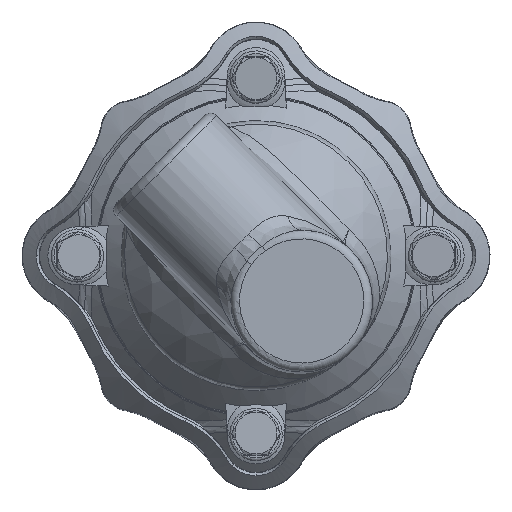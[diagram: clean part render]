
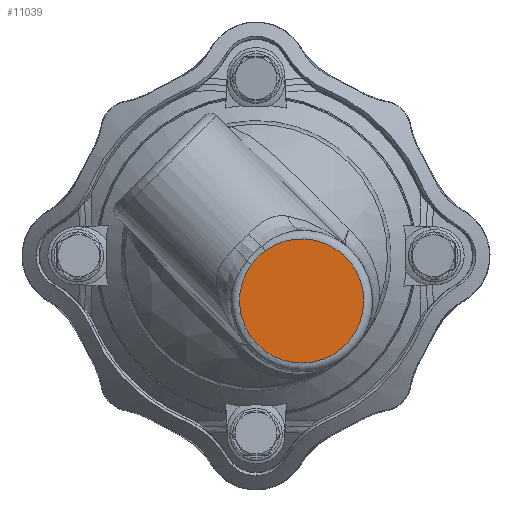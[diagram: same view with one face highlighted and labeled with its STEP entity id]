
A CAD part, top view. The second image highlights one B-rep face of the part: STEP entity #11039.
In plain terms, the highlighted planar face has unit normal (0, 0, 1).
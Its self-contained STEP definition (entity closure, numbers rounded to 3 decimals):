
#1021 = VERTEX_POINT ( 'NONE', #4563 ) ;
#1787 = CARTESIAN_POINT ( 'NONE',  ( 5.242, 2.623, 85.5 ) ) ;
#2350 = EDGE_CURVE ( 'NONE', #21409, #1021, #12899, .T. ) ;
#2367 = EDGE_CURVE ( 'NONE', #1021, #21409, #19783, .T. ) ;
#4563 = CARTESIAN_POINT ( 'NONE',  ( -2.623, -5.242, 85.5 ) ) ;
#6964 = CARTESIAN_POINT ( 'NONE',  ( 26.102, -26.102, 85.5 ) ) ;
#6970 = PLANE ( 'NONE',  #10097 ) ;
#6978 = DIRECTION ( 'NONE',  ( 0., 0., 1. ) ) ;
#6980 = DIRECTION ( 'NONE',  ( 1., 0., 0. ) ) ;
#10097 = AXIS2_PLACEMENT_3D ( 'NONE', #6964, #6978, #6980 ) ;
#11039 = ADVANCED_FACE ( 'NONE', ( #18042 ), #6970, .T. ) ;
#12899 = B_SPLINE_CURVE_WITH_KNOTS ( 'NONE', 3,
 ( #17343, #17332, #17361, #17363, #17365, #17366, #17368, #17370, #17372 ),
 .UNSPECIFIED., .F., .F.,
 ( 4, 2, 1, 2, 4 ),
 ( 0., 0.003, 0.006, 0.008, 0.011 ),
 .UNSPECIFIED. ) ;
#17332 = CARTESIAN_POINT ( 'NONE',  ( 4.482, 2.071, 85.5 ) ) ;
#17343 = CARTESIAN_POINT ( 'NONE',  ( 5.242, 2.623, 85.5 ) ) ;
#17361 = CARTESIAN_POINT ( 'NONE',  ( 3.744, 1.499, 85.5 ) ) ;
#17363 = CARTESIAN_POINT ( 'NONE',  ( 2.321, 0.3, 85.5 ) ) ;
#17365 = CARTESIAN_POINT ( 'NONE',  ( 0.953, -0.953, 85.5 ) ) ;
#17366 = CARTESIAN_POINT ( 'NONE',  ( -0.3, -2.321, 85.5 ) ) ;
#17368 = CARTESIAN_POINT ( 'NONE',  ( -1.499, -3.744, 85.5 ) ) ;
#17370 = CARTESIAN_POINT ( 'NONE',  ( -2.071, -4.482, 85.5 ) ) ;
#17372 = CARTESIAN_POINT ( 'NONE',  ( -2.623, -5.242, 85.5 ) ) ;
#17500 = CARTESIAN_POINT ( 'NONE',  ( 26.102, -26.102, 85.5 ) ) ;
#17502 = DIRECTION ( 'NONE',  ( 0., 0., 1. ) ) ;
#17503 = DIRECTION ( 'NONE',  ( 1., 0., 0. ) ) ;
#18042 = FACE_OUTER_BOUND ( 'NONE', #22600, .T. ) ;
#18823 = AXIS2_PLACEMENT_3D ( 'NONE', #17500, #17502, #17503 ) ;
#19178 = ORIENTED_EDGE ( 'NONE', *, *, #2350, .T. ) ;
#19179 = ORIENTED_EDGE ( 'NONE', *, *, #2367, .T. ) ;
#19783 = CIRCLE ( 'NONE', #18823, 35.5 ) ;
#21409 = VERTEX_POINT ( 'NONE', #1787 ) ;
#22600 = EDGE_LOOP ( 'NONE', ( #19179, #19178 ) ) ;
